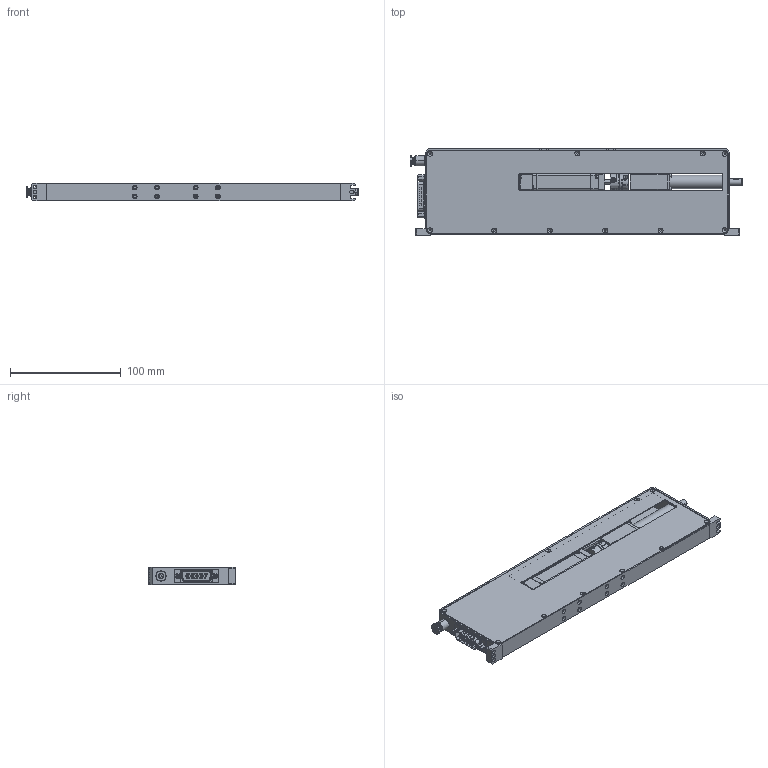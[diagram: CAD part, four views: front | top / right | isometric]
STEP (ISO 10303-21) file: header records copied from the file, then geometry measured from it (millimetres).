
FILE_DESCRIPTION (( 'STEP AP203' ), '1' );
FILE_NAME ('PZR16-S045-T3-EC0001 ZR粣耀郪.STEP', '2025-10-16T07:13:42', ( '' ), ( '' ), 'SwSTEP 2.0', 'SolidWorks 2022', '' );
FILE_SCHEMA (( 'CONFIG_CONTROL_DESIGN' ));
Products named in the file (1): PZR16-S045-T3-EC0001 ZR轴模组
Bounding box: 299.6 x 78 x 16 mm (x, y, z)
Surface area: 106815.5 mm2 (no closed solid volume)
Topology: 0 solids, 96 shells, 994 faces, 4245 edges, 3283 vertices
Faces by surface type: plane 432, cylinder 416, bspline 76, cone 54, torus 10, sphere 6
Entity records: 53844 total; most frequent: CARTESIAN_POINT 20687, DIRECTION 6397, ORIENTED_EDGE 6091, EDGE_CURVE 4187, VERTEX_POINT 3283, VECTOR 2305, LINE 2305, AXIS2_PLACEMENT_3D 2046
